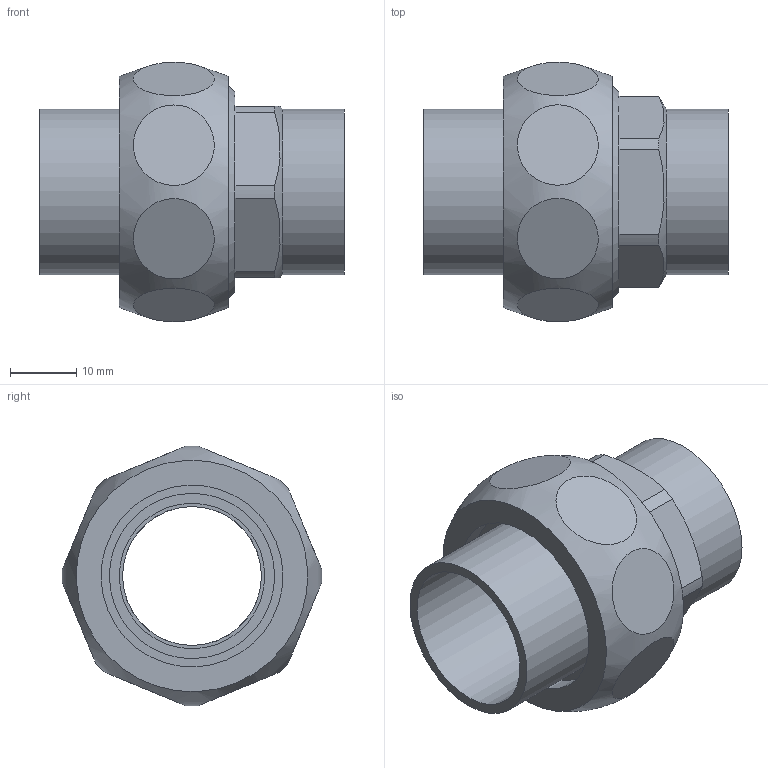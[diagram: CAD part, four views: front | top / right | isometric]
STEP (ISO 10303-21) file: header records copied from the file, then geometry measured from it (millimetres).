
FILE_DESCRIPTION((''),'2;1');
FILE_NAME('\\lg50001\SANHA_Legnica\Engineering\Public\RYSUNKI\SANHA POLSKA\4330\step\14330_22(2).stp','2012-03-27T08:31:54',('pajchrowski'),(''),'Autodesk Inventor 2009','Autodesk Inventor 2009','');
FILE_SCHEMA(('AUTOMOTIVE_DESIGN { 1 0 10303 214 1 1 1 1 }'));
Length unit declared in the file: millimetre
Products named in the file (5): 14330_22(2); 14374_1(1); 1DCU1; 14370_22-1(1); 14372_22-1(1)
Assembly tree (4 placements, depth 2):
  14330_22(2)
    14374_1(1)
    1DCU1
    14370_22-1(1)
    14372_22-1(1)
Bounding box: 46 x 39.27 x 39.27 mm (x, y, z)
Volume: 16852.3 mm3; surface area: 13532.4 mm2
Topology: 4 solids, 4 shells, 50 faces, 93 edges, 63 vertices
Faces by surface type: plane 27, cylinder 18, cone 4, bspline 1
Full cylindrical faces by diameter (mm): 21 x3, 22 x2, 25 x2, 27.5 x1, 29.5 x1, 30 x1, 30.291 x1, 33.249 x1
Entity records: 2550 total; most frequent: CARTESIAN_POINT 1455, DIRECTION 216, ORIENTED_EDGE 146, AXIS2_PLACEMENT_3D 99, EDGE_LOOP 88, EDGE_CURVE 73, VERTEX_POINT 61, FACE_OUTER_BOUND 50
